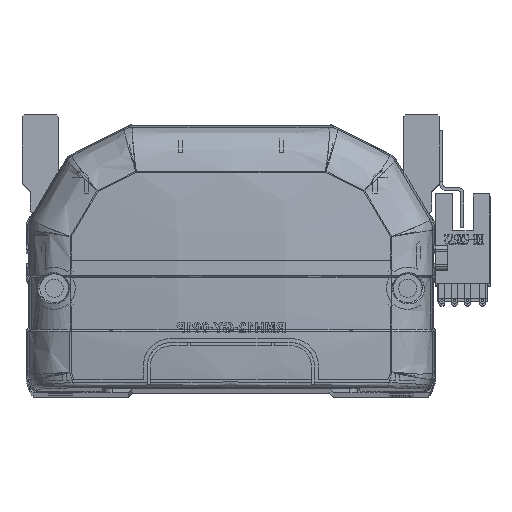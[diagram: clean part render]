
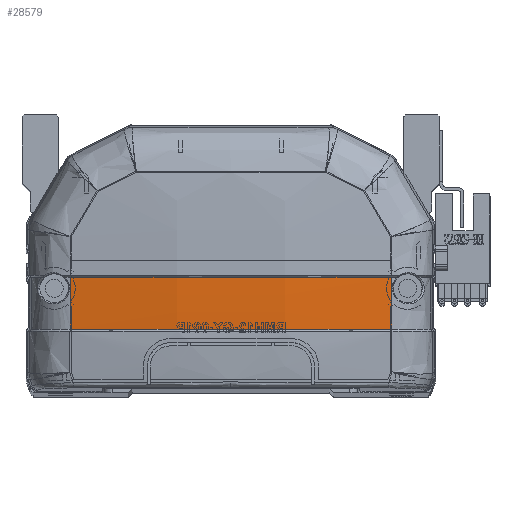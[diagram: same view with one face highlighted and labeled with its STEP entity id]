
A CAD part, top view. The second image highlights one B-rep face of the part: STEP entity #28579.
In plain terms, the highlighted free-form (B-spline) face has degree [3, 3] with [4, 4] control points.
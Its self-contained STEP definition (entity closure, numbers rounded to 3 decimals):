
#404 = EDGE_CURVE ( 'NONE', #57009, #32841, #24405, .T. ) ;
#909 = CARTESIAN_POINT ( 'NONE',  ( 13.598, 15.499, -10.032 ) ) ;
#1109 = CARTESIAN_POINT ( 'NONE',  ( 40.461, 15.757, -5.8 ) ) ;
#1309 = ORIENTED_EDGE ( 'NONE', *, *, #26792, .F. ) ;
#1670 = CARTESIAN_POINT ( 'NONE',  ( -40.461, 20.111, -6.066 ) ) ;
#2150 = CARTESIAN_POINT ( 'NONE',  ( 13.38, 15.83, -8.984 ) ) ;
#2727 = CARTESIAN_POINT ( 'NONE',  ( -33.365, 15.83, -6.848 ) ) ;
#6378 = VERTEX_POINT ( 'NONE', #56244 ) ;
#7837 = CARTESIAN_POINT ( 'NONE',  ( 39.985, 15.83, -5.879 ) ) ;
#8504 = B_SPLINE_CURVE_WITH_KNOTS ( 'NONE', 3,
 ( #21927, #17781, #26598, #16994, #41149, #45087 ),
 .UNSPECIFIED., .F., .F.,
 ( 4, 2, 4 ),
 ( 0., 0.5, 1. ),
 .UNSPECIFIED. ) ;
#9709 = CARTESIAN_POINT ( 'NONE',  ( 40.461, 20.111, -6.066 ) ) ;
#9902 = CARTESIAN_POINT ( 'NONE',  ( 13.598, 19.918, -10.302 ) ) ;
#10076 = ORIENTED_EDGE ( 'NONE', *, *, #16478, .T. ) ;
#10110 = CARTESIAN_POINT ( 'NONE',  ( -13.598, 15.499, -10.032 ) ) ;
#11163 = FACE_OUTER_BOUND ( 'NONE', #39467, .T. ) ;
#11532 = ORIENTED_EDGE ( 'NONE', *, *, #404, .T. ) ;
#11539 = CARTESIAN_POINT ( 'NONE',  ( 39.966, 24.413, -6.306 ) ) ;
#12135 = B_SPLINE_CURVE_WITH_KNOTS ( 'NONE', 3,
 ( #38505, #42439, #2150, #20058, #52065, #56577, #24729, #2727, #29594, #42621 ),
 .UNSPECIFIED., .F., .F.,
 ( 4, 2, 2, 2, 4 ),
 ( 0., 0.04, 0.06, 0.07, 0.08 ),
 .UNSPECIFIED. ) ;
#12823 = VERTEX_POINT ( 'NONE', #48333 ) ;
#14648 = CARTESIAN_POINT ( 'NONE',  ( -13.598, 19.918, -10.302 ) ) ;
#15017 = CARTESIAN_POINT ( 'NONE',  ( -13.598, 28.769, -10.535 ) ) ;
#15104 = ORIENTED_EDGE ( 'NONE', *, *, #16642, .F. ) ;
#16478 = EDGE_CURVE ( 'NONE', #6378, #12823, #17868, .T. ) ;
#16642 = EDGE_CURVE ( 'NONE', #57009, #12823, #12135, .T. ) ;
#16994 = CARTESIAN_POINT ( 'NONE',  ( 13.375, 28.707, -9.468 ) ) ;
#17781 = CARTESIAN_POINT ( 'NONE',  ( -26.748, 28.706, -8.432 ) ) ;
#17868 = B_SPLINE_CURVE_WITH_KNOTS ( 'NONE', 3,
 ( #28152, #41748, #42698, #38579 ),
 .UNSPECIFIED., .F., .F.,
 ( 4, 4 ),
 ( 0., 1. ),
 .UNSPECIFIED. ) ;
#18804 = CARTESIAN_POINT ( 'NONE',  ( 40.461, 28.832, -6.296 ) ) ;
#20047 = CARTESIAN_POINT ( 'NONE',  ( 39.973, 20.12, -6.142 ) ) ;
#20058 = CARTESIAN_POINT ( 'NONE',  ( -6.692, 15.83, -8.984 ) ) ;
#21927 = CARTESIAN_POINT ( 'NONE',  ( -39.963, 28.706, -6.372 ) ) ;
#23495 = CARTESIAN_POINT ( 'NONE',  ( 13.598, 28.769, -10.535 ) ) ;
#24362 =( BOUNDED_SURFACE ( )  B_SPLINE_SURFACE ( 3, 3, ( 
 ( #1109, #9709, #45723, #18804 ),
 ( #909, #9902, #45917, #23495 ),
 ( #10110, #14648, #51015, #15017 ),
 ( #28559, #1670, #33071, #24436 ) ),
 .UNSPECIFIED., .F., .F., .F. ) 
 B_SPLINE_SURFACE_WITH_KNOTS ( ( 4, 4 ),
 ( 4, 4 ),
 ( 0., 1. ),
 ( 0., 1. ),
 .UNSPECIFIED. ) 
 GEOMETRIC_REPRESENTATION_ITEM ( )  RATIONAL_B_SPLINE_SURFACE ( (
 ( 1., 1., 1., 1.),
 ( 0.992, 0.992, 0.992, 0.992),
 ( 0.992, 0.992, 0.992, 0.992),
 ( 1., 1., 1., 1.) ) ) 
 REPRESENTATION_ITEM ( '' )  SURFACE ( )  );
#24405 = B_SPLINE_CURVE_WITH_KNOTS ( 'NONE', 3,
 ( #56163, #20047, #11539, #33948 ),
 .UNSPECIFIED., .F., .F.,
 ( 4, 4 ),
 ( 0., 1. ),
 .UNSPECIFIED. ) ;
#24436 = CARTESIAN_POINT ( 'NONE',  ( -40.461, 28.832, -6.296 ) ) ;
#24729 = CARTESIAN_POINT ( 'NONE',  ( -26.721, 15.83, -7.624 ) ) ;
#26598 = CARTESIAN_POINT ( 'NONE',  ( -13.373, 28.707, -9.468 ) ) ;
#26792 = EDGE_CURVE ( 'NONE', #6378, #32841, #8504, .T. ) ;
#28152 = CARTESIAN_POINT ( 'NONE',  ( -39.963, 28.706, -6.372 ) ) ;
#28559 = CARTESIAN_POINT ( 'NONE',  ( -40.461, 15.757, -5.8 ) ) ;
#28579 = ADVANCED_FACE ( 'NONE', ( #11163 ), #24362, .F. ) ;
#29594 = CARTESIAN_POINT ( 'NONE',  ( -36.679, 15.83, -6.395 ) ) ;
#32574 = CARTESIAN_POINT ( 'NONE',  ( 39.963, 28.706, -6.372 ) ) ;
#32841 = VERTEX_POINT ( 'NONE', #32574 ) ;
#33071 = CARTESIAN_POINT ( 'NONE',  ( -40.461, 24.47, -6.231 ) ) ;
#33948 = CARTESIAN_POINT ( 'NONE',  ( 39.963, 28.706, -6.372 ) ) ;
#38505 = CARTESIAN_POINT ( 'NONE',  ( 39.985, 15.83, -5.879 ) ) ;
#38579 = CARTESIAN_POINT ( 'NONE',  ( -39.985, 15.83, -5.879 ) ) ;
#39467 = EDGE_LOOP ( 'NONE', ( #11532, #1309, #10076, #15104 ) ) ;
#41149 = CARTESIAN_POINT ( 'NONE',  ( 26.749, 28.706, -8.432 ) ) ;
#41748 = CARTESIAN_POINT ( 'NONE',  ( -39.966, 24.412, -6.306 ) ) ;
#42439 = CARTESIAN_POINT ( 'NONE',  ( 26.761, 15.83, -7.945 ) ) ;
#42621 = CARTESIAN_POINT ( 'NONE',  ( -39.985, 15.83, -5.879 ) ) ;
#42698 = CARTESIAN_POINT ( 'NONE',  ( -39.973, 20.118, -6.142 ) ) ;
#45087 = CARTESIAN_POINT ( 'NONE',  ( 39.963, 28.706, -6.372 ) ) ;
#45723 = CARTESIAN_POINT ( 'NONE',  ( 40.461, 24.47, -6.231 ) ) ;
#45917 = CARTESIAN_POINT ( 'NONE',  ( 13.598, 24.342, -10.47 ) ) ;
#48333 = CARTESIAN_POINT ( 'NONE',  ( -39.985, 15.83, -5.879 ) ) ;
#51015 = CARTESIAN_POINT ( 'NONE',  ( -13.598, 24.342, -10.47 ) ) ;
#52065 = CARTESIAN_POINT ( 'NONE',  ( -13.384, 15.83, -8.724 ) ) ;
#56163 = CARTESIAN_POINT ( 'NONE',  ( 39.985, 15.83, -5.879 ) ) ;
#56244 = CARTESIAN_POINT ( 'NONE',  ( -39.963, 28.706, -6.372 ) ) ;
#56577 = CARTESIAN_POINT ( 'NONE',  ( -23.389, 15.83, -7.947 ) ) ;
#57009 = VERTEX_POINT ( 'NONE', #7837 ) ;
